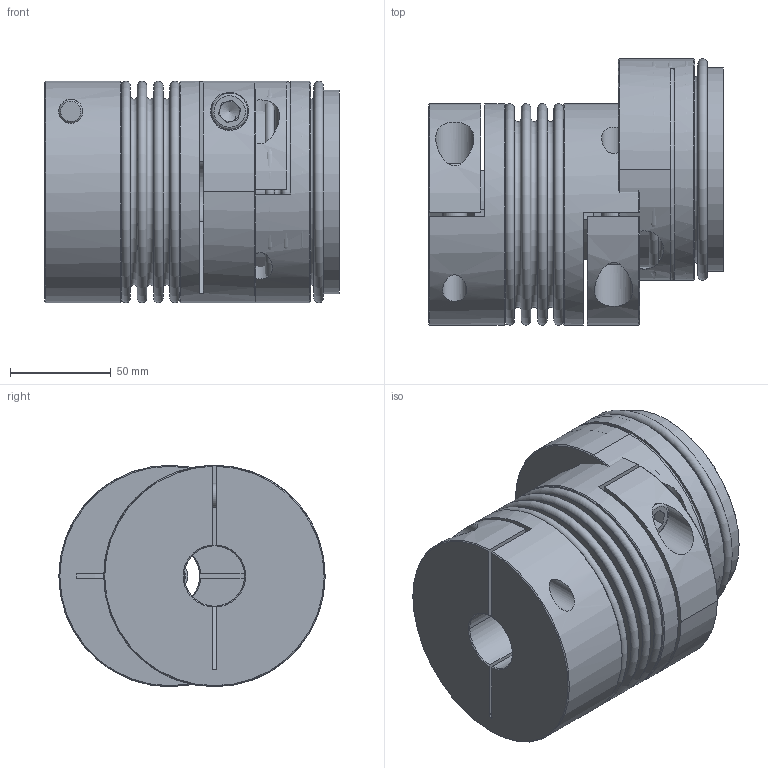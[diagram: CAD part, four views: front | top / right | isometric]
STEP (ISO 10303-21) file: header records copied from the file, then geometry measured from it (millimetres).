
FILE_DESCRIPTION( ( 'Unknown' ), '1' );
FILE_NAME( 'C:/Dokumente und Einstellungen/Sven/Desktop/cad - homepage/KB4/KB4-300-105.stp', 'Unknown', ( 'Unknown' ), ( 'Unknown' ), 'XStep 1.0', 'Unknown', ' ' );
FILE_SCHEMA( ( 'automotive_design' ) );
Length unit declared in the file: millimetre
Products named in the file (4): Assem1; BK300_Standard; Socket Head Cap Screw_DIN_DIN 912 M12 x 35 --- 35N_1; KN300_Standard
Bounding box: 146.49 x 132.27 x 110 mm (x, y, z)
Volume: 987877.1 mm3; surface area: 270686 mm2
Topology: 8 solids, 8 shells, 201 faces, 423 edges, 273 vertices
Faces by surface type: plane 108, cylinder 41, torus 34, cone 18
Full cylindrical faces by diameter (mm): 12 x6, 12.5 x3, 18 x3, 19 x3, 30 x3, 99.8 x4, 101 x4, 110 x3
Entity records: 2258 total; most frequent: CARTESIAN_POINT 493, DIRECTION 345, ORIENTED_EDGE 236, AXIS2_PLACEMENT_3D 153, EDGE_LOOP 132, EDGE_CURVE 118, FACE_OUTER_BOUND 104, VERTEX_POINT 95
